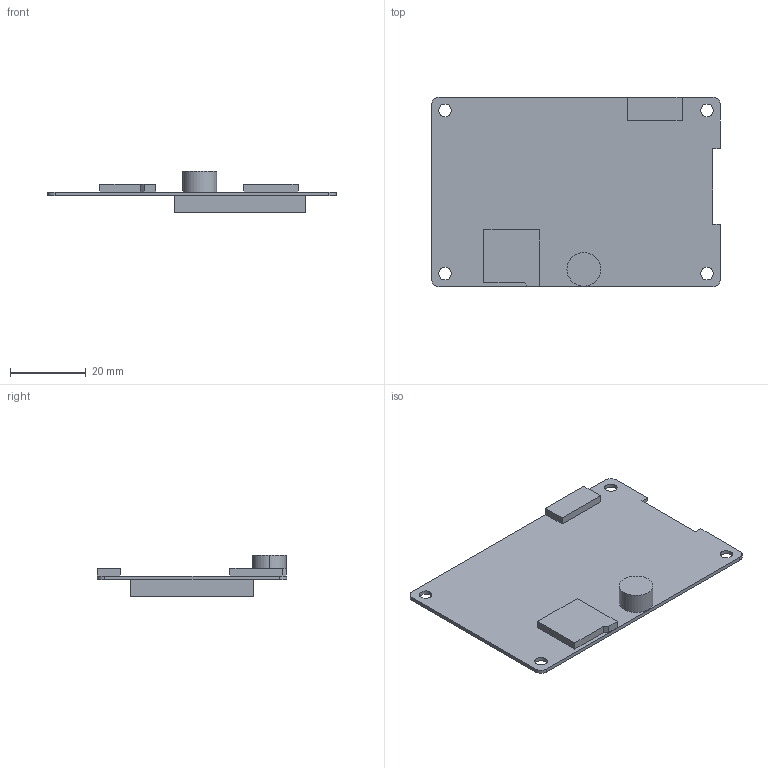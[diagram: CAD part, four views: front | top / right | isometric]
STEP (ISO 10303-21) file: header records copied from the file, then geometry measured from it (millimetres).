
FILE_DESCRIPTION((''),'2;1');
FILE_NAME('3D-DMG24240C015-03WN-220902','2022-09-02T',('Administrator'),(''),'PRO/ENGINEER BY PARAMETRIC TECHNOLOGY CORPORATION, 2008380','PRO/ENGINEER BY PARAMETRIC TECHNOLOGY CORPORATION, 2008380','');
FILE_SCHEMA(('CONFIG_CONTROL_DESIGN'));
Length unit declared in the file: millimetre
Products named in the file (1): 3D-DMG24240C015-03WN-220902
Bounding box: 76 x 50 x 11 mm (x, y, z)
Volume: 9373.6 mm3; surface area: 8740.3 mm2
Topology: 1 solids, 1 shells, 47 faces, 6510 edges, 10928 vertices
Faces by surface type: plane 33, cylinder 14
Entity records: 35375 total; most frequent: DIRECTION 8569, CARTESIAN_POINT 6638, TRIMMED_CURVE 6390, VECTOR 4547, LINE 4547, AXIS2_PLACEMENT_3D 2011, CIRCLE 1963, ORIENTED_EDGE 240
